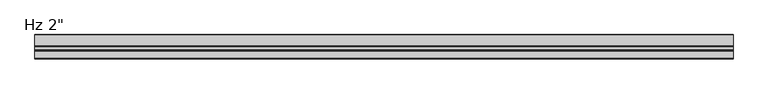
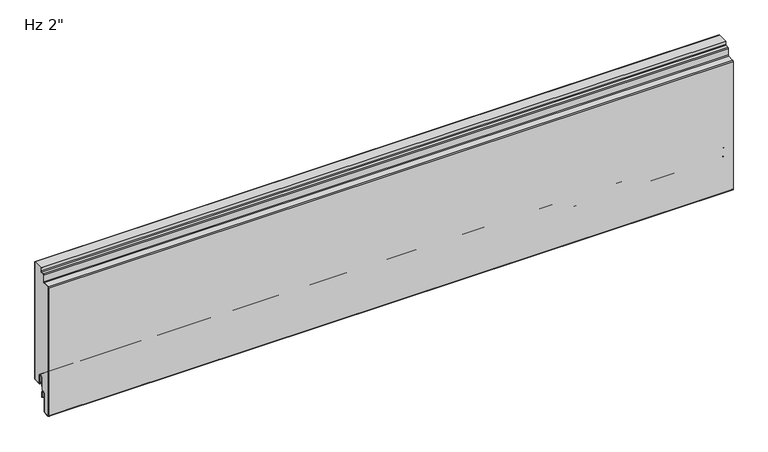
"""IFC4 building model written with IfcOpenShell, lengths in millimetres: plate geometry."""

from ifc_helpers import new_model, si_unit, point, frame, frame_2d, origin, place, context, project, spatial, polyline, circle_curve, trimmed, segment, composite_curve, outline, extrude, source, transform, mapped, element, save


def plate_84317ace(model_context):
    return source(origin(), model_context, "Body", "SweptSolid", [
        extrude(outline(composite_curve([segment(polyline([(-22.8125, 259.7620957), (-22.8125, 266.4), (-1.0, 266.4), (-1.0, 3.175)]), True, "CONTINUOUS"), segment(trimmed(circle_curve(frame_2d((-2.38125, 3.175)), 1.38125), [point((-1.0, 3.175))], [point((-2.38125, 1.79375))], False, "CARTESIAN"), True, "CONTINUOUS"), segment(polyline([(-2.38125, 1.79375), (-15.08125, 1.79375)]), True, "CONTINUOUS"), segment(trimmed(circle_curve(frame_2d((-15.08125, 3.175)), 1.38125), [point((-15.08125, 1.79375))], [point((-16.4625, 3.175))], False, "CARTESIAN"), True, "CONTINUOUS"), segment(polyline([(-16.4625, 3.175), (-16.4625, 19.05)]), True, "CONTINUOUS"), segment(trimmed(circle_curve(frame_2d((-21.43125, 19.05)), 4.96875), [point((-16.4625, 19.05))], [point((-26.4, 19.05))], True, "CARTESIAN"), True, "CONTINUOUS"), segment(polyline([(-26.4, 19.05), (-26.4, -6.9375), (-30.95625, -6.9375)]), True, "CONTINUOUS"), segment(trimmed(circle_curve(frame_2d((-30.95625, -11.90625)), 4.96875), [point((-30.95625, -6.9375))], [point((-35.925, -11.90625))], True, "CARTESIAN"), True, "CONTINUOUS"), segment(polyline([(-35.925, -11.90625), (-35.925, -50.0895546)]), True, "CONTINUOUS"), segment(trimmed(circle_curve(frame_2d((-37.30625, -50.0895546)), 1.38125), [point((-35.925, -50.0895546))], [point((-37.233961, -51.4689117))], False, "CARTESIAN"), True, "CONTINUOUS"), segment(polyline([(-37.233961, -51.4689117), (-48.346461, -52.0512931)]), True, "CONTINUOUS"), segment(trimmed(circle_curve(frame_2d((-48.41875, -50.6719361)), 1.38125), [point((-48.346461, -52.0512931))], [point((-49.8, -50.6719361))], False, "CARTESIAN"), True, "CONTINUOUS"), segment(polyline([(-49.8, -50.6719361), (-49.8, 236.6447607)]), True, "CONTINUOUS"), segment(trimmed(circle_curve(frame_2d((-48.41875, 236.6447607)), 1.38125), [point((-49.8, 236.6447607))], [point((-48.491039, 238.0241177))], False, "CARTESIAN"), True, "CONTINUOUS"), segment(polyline([(-48.491039, 238.0241177), (-34.7895807, 238.7421807)]), True, "CONTINUOUS"), segment(trimmed(circle_curve(frame_2d((-34.925, 241.3261347)), 2.5875), [point((-34.7895807, 238.7421807))], [point((-32.3375, 241.3261347))], True, "CARTESIAN"), True, "CONTINUOUS"), segment(polyline([(-32.3375, 241.3261347), (-32.3375, 255.4967085)]), True, "CONTINUOUS"), segment(trimmed(circle_curve(frame_2d((-30.95625, 255.4967085)), 1.38125), [point((-32.3375, 255.4967085))], [point((-31.028539, 256.8760655))], False, "CARTESIAN"), True, "CONTINUOUS"), segment(polyline([(-31.028539, 256.8760655), (-25.2645807, 257.1781418)]), True, "CONTINUOUS"), segment(trimmed(circle_curve(frame_2d((-25.4, 259.7620957)), 2.5875), [point((-25.2645807, 257.1781418))], [point((-22.8125, 259.7620957))], True, "CARTESIAN"), True, "CONTINUOUS")], self_intersect=False)), frame((-730.0, 0.0, 0.0), z_axis=(1.0, 0.0, 0.0), x_axis=(0.0, 1.0, 0.0)), (0.0, 0.0, 1.0), 1460.0),
        extrude(outline(composite_curve([segment(polyline([(-25.4, 0.79375), (-26.4, 0.79375), (-26.4, 19.05)]), True, "CONTINUOUS"), segment(trimmed(circle_curve(frame_2d((-21.43125, 19.05)), 4.96875), [point((-26.4, 19.05))], [point((-16.4625, 19.05))], False, "CARTESIAN"), True, "CONTINUOUS"), segment(polyline([(-16.4625, 19.05), (-16.4625, 3.175)]), True, "CONTINUOUS"), segment(trimmed(circle_curve(frame_2d((-15.08125, 3.175)), 1.38125), [point((-16.4625, 3.175))], [point((-15.08125, 1.79375))], True, "CARTESIAN"), True, "CONTINUOUS"), segment(polyline([(-15.08125, 1.79375), (-2.38125, 1.79375)]), True, "CONTINUOUS"), segment(trimmed(circle_curve(frame_2d((-2.38125, 3.175)), 1.38125), [point((-2.38125, 1.79375))], [point((-1.0, 3.175))], True, "CARTESIAN"), True, "CONTINUOUS"), segment(polyline([(-1.0, 3.175), (-1.0, 266.4), (0.0, 266.4), (0.0, 3.175)]), True, "CONTINUOUS"), segment(trimmed(circle_curve(frame_2d((-2.38125, 3.175)), 2.38125), [point((0.0, 3.175))], [point((-2.38125, 0.79375))], False, "CARTESIAN"), True, "CONTINUOUS"), segment(polyline([(-2.38125, 0.79375), (-15.08125, 0.79375)]), True, "CONTINUOUS"), segment(trimmed(circle_curve(frame_2d((-15.08125, 3.175)), 2.38125), [point((-15.08125, 0.79375))], [point((-17.4625, 3.175))], False, "CARTESIAN"), True, "CONTINUOUS"), segment(polyline([(-17.4625, 3.175), (-17.4625, 19.05)]), True, "CONTINUOUS"), segment(trimmed(circle_curve(frame_2d((-21.43125, 19.05)), 3.96875), [point((-17.4625, 19.05))], [point((-25.4, 19.05))], True, "CARTESIAN"), True, "CONTINUOUS"), segment(polyline([(-25.4, 19.05), (-25.4, 0.79375)]), True, "CONTINUOUS")], self_intersect=False)), frame((-730.0, 0.0, 0.0), z_axis=(1.0, 0.0, 0.0), x_axis=(0.0, 1.0, 0.0)), (0.0, 0.0, 1.0), 1460.0),
        extrude(outline(composite_curve([segment(trimmed(circle_curve(frame_2d((-26.19375, -23.2314549)), 0.79375), [point((-25.4, -23.2314549))], [point((-26.9875, -23.2314549))], False, "CARTESIAN"), True, "CONTINUOUS"), segment(polyline([(-26.9875, -23.2314549), (-26.9875, -11.9205174)]), True, "CONTINUOUS"), segment(trimmed(circle_curve(frame_2d((-30.95625, -11.9205174)), 3.96875), [point((-26.9875, -11.9205174))], [point((-34.925, -11.9205174))], True, "CARTESIAN"), True, "CONTINUOUS"), segment(polyline([(-34.925, -11.9205174), (-34.925, -50.1038221)]), True, "CONTINUOUS"), segment(trimmed(circle_curve(frame_2d((-37.30625, -50.1038221)), 2.38125), [point((-34.925, -50.1038221))], [point((-37.181625, -52.4818086))], False, "CARTESIAN"), True, "CONTINUOUS"), segment(polyline([(-37.181625, -52.4818086), (-48.294125, -53.0641901)]), True, "CONTINUOUS"), segment(trimmed(circle_curve(frame_2d((-48.41875, -50.6862035)), 2.38125), [point((-48.294125, -53.0641901))], [point((-50.8, -50.6862035))], False, "CARTESIAN"), True, "CONTINUOUS"), segment(polyline([(-50.8, -50.6862035), (-50.8, 236.6447607)]), True, "CONTINUOUS"), segment(trimmed(circle_curve(frame_2d((-48.41875, 236.6447607)), 2.38125), [point((-50.8, 236.6447607))], [point((-48.543375, 239.0227473))], False, "CARTESIAN"), True, "CONTINUOUS"), segment(polyline([(-48.543375, 239.0227473), (-34.8419167, 239.7408103)]), True, "CONTINUOUS"), segment(trimmed(circle_curve(frame_2d((-34.925, 241.3261347)), 1.5875), [point((-34.8419167, 239.7408103))], [point((-33.3375, 241.3261347))], True, "CARTESIAN"), True, "CONTINUOUS"), segment(polyline([(-33.3375, 241.3261347), (-33.3375, 255.4824411)]), True, "CONTINUOUS"), segment(trimmed(circle_curve(frame_2d((-30.95625, 255.4824411)), 2.38125), [point((-33.3375, 255.4824411))], [point((-31.080875, 257.8604276))], False, "CARTESIAN"), True, "CONTINUOUS"), segment(polyline([(-31.080875, 257.8604276), (-25.3169167, 258.1625039)]), True, "CONTINUOUS"), segment(trimmed(circle_curve(frame_2d((-25.4, 259.7478283)), 1.5875), [point((-25.3169167, 258.1625039))], [point((-23.8125, 259.7478283))], True, "CARTESIAN"), True, "CONTINUOUS"), segment(polyline([(-23.8125, 259.7478283), (-23.8125, 266.4), (-22.8125, 266.4), (-22.8125, 259.7478283)]), True, "CONTINUOUS"), segment(trimmed(circle_curve(frame_2d((-25.4, 259.7478283)), 2.5875), [point((-22.8125, 259.7478283))], [point((-25.2645807, 257.1638744))], False, "CARTESIAN"), True, "CONTINUOUS"), segment(polyline([(-25.2645807, 257.1638744), (-31.028539, 256.8617981)]), True, "CONTINUOUS"), segment(trimmed(circle_curve(frame_2d((-30.95625, 255.4824411)), 1.38125), [point((-31.028539, 256.8617981))], [point((-32.3375, 255.4824411))], True, "CARTESIAN"), True, "CONTINUOUS"), segment(polyline([(-32.3375, 255.4824411), (-32.3375, 241.3261347)]), True, "CONTINUOUS"), segment(trimmed(circle_curve(frame_2d((-34.925, 241.3261347)), 2.5875), [point((-32.3375, 241.3261347))], [point((-34.7895807, 238.7421807))], False, "CARTESIAN"), True, "CONTINUOUS"), segment(polyline([(-34.7895807, 238.7421807), (-48.491039, 238.0241177)]), True, "CONTINUOUS"), segment(trimmed(circle_curve(frame_2d((-48.41875, 236.6447607)), 1.38125), [point((-48.491039, 238.0241177))], [point((-49.8, 236.6447607))], True, "CARTESIAN"), True, "CONTINUOUS"), segment(polyline([(-49.8, 236.6447607), (-49.8, -50.6862035)]), True, "CONTINUOUS"), segment(trimmed(circle_curve(frame_2d((-48.41875, -50.6862035)), 1.38125), [point((-49.8, -50.6862035))], [point((-48.346461, -52.0655606))], True, "CARTESIAN"), True, "CONTINUOUS"), segment(polyline([(-48.346461, -52.0655606), (-37.233961, -51.4831791)]), True, "CONTINUOUS"), segment(trimmed(circle_curve(frame_2d((-37.30625, -50.1038221)), 1.38125), [point((-37.233961, -51.4831791))], [point((-35.925, -50.1038221))], True, "CARTESIAN"), True, "CONTINUOUS"), segment(polyline([(-35.925, -50.1038221), (-35.925, -11.9205174)]), True, "CONTINUOUS"), segment(trimmed(circle_curve(frame_2d((-30.95625, -11.9205174)), 4.96875), [point((-35.925, -11.9205174))], [point((-25.9875, -11.9205174))], False, "CARTESIAN"), True, "CONTINUOUS"), segment(polyline([(-25.9875, -11.9205174), (-26.19375, -13.5080174), (-25.4, -13.5080174), (-25.4, -23.2314549)]), True, "CONTINUOUS")], self_intersect=False)), frame((-730.0, 0.0, 0.0), z_axis=(1.0, 0.0, 0.0), x_axis=(0.0, 1.0, 0.0)), (0.0, 0.0, 1.0), 1460.0),
    ])


if __name__ == "__main__":
    model = new_model("IFC4")
    model_context = context("Model", 3, world=origin())
    ifc_project = project(units=[si_unit("LENGTHUNIT", "METRE", prefix="MILLI")], contexts=[model_context])
    site = spatial("IfcSite", under=ifc_project)
    building = spatial("IfcBuilding", under=site)
    placement = place(None, origin())
    plate_shape = plate_84317ace(model_context)
    element("IfcPlate", 1, ObjectType="KIP-12-DWHR-R19-CP-Hz-F : Hz 2\"", at=placement, inside=building, context=model_context, shape_type="MappedRepresentation", body=[
        mapped(plate_shape, transform((0.0, 0.0, 0.0), x_axis=(1.0, 0.0, 0.0), y_axis=(0.0, 1.0, 0.0), z_axis=(0.0, 0.0, 1.0))),
    ])
    save(model, "model.ifc")
